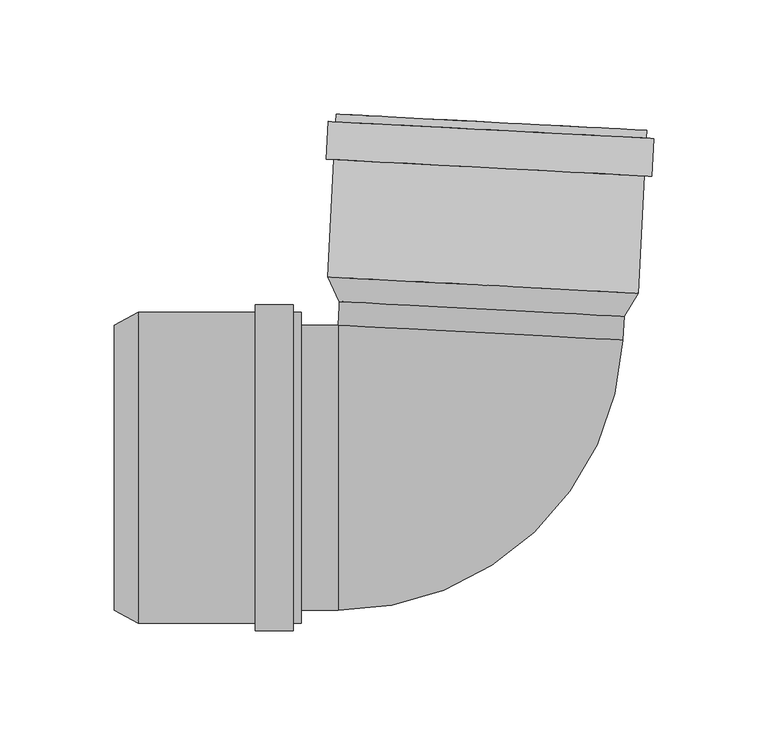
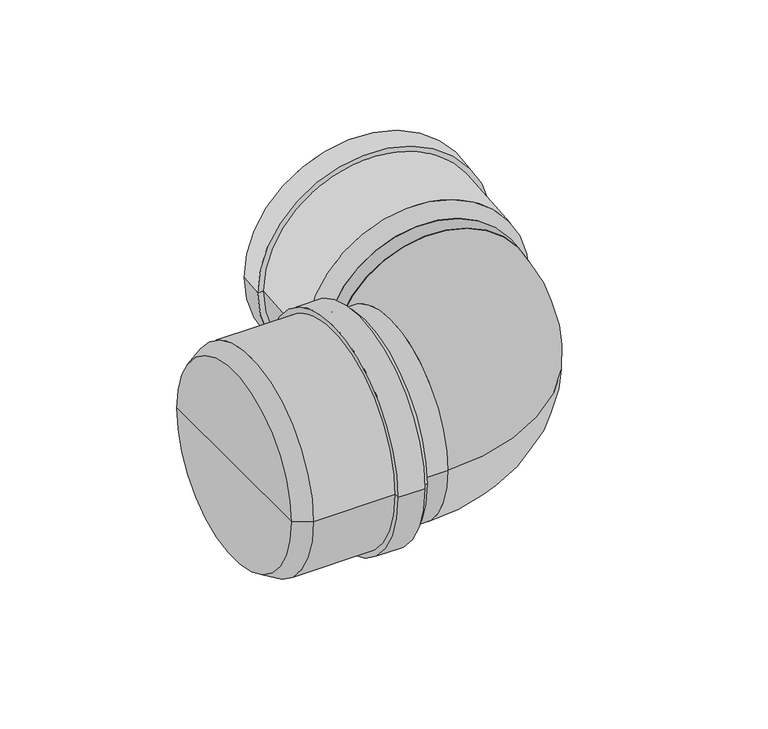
"""IFC4 building model written with IfcOpenShell, lengths in millimetres: pipe fitting geometry, pf_HTB : pf_HTB."""

from ifc_helpers import new_model, si_unit, point, frame, origin, origin_2d, place, context, project, spatial, polyline, circle_curve, ellipse_curve, trimmed, segment, composite_curve, outline, extrude, source, transform, mapped, element, save
from ifc_brep_helpers import plane_surface, cylinder_surface, revolved_surface, advanced_brep


def pipe_fitting_a0c841f7(model_context):
    return source(origin(), model_context, "Body", "SolidModel", [
        advanced_brep(
        [(66.0621621, 66.3334813, 0.0), (-58.7665298, 72.8754758, 0.0), (-63.8093276, 83.6541673, 0.0), (72.204015, 76.5260101, 0.0), (3.6478162, 69.6044786, 0.0), (75.9460359, 147.9280218, 0.0), (-60.0673068, 155.056179, 0.0), (-54.4749814, 154.7630977, 0.0), (70.3537105, 148.2211032, 0.0), (75.7680936, 144.5326814, 0.0), (-60.245249, 151.6608386, 0.0), (79.163434, 144.3547391, 0.0), (-63.6405894, 151.8387809, 0.0), (78.2946572, 127.7774889, 0.0), (-64.5093663, 135.2615306, 0.0), (74.8993168, 127.9554311, 0.0), (-61.1140259, 135.0835883, 0.0), (66.6116896, 76.8190914, 0.0), (-58.2170022, 83.361086, 0.0), (4.1973437, 80.0900887, 0.0)],
        [
            (0, 1, circle_curve(frame((3.6478162, 69.6044786, 0.0), z_axis=(0.05233595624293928, 0.9986295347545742, 0.0), x_axis=(-0.9986295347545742, 0.05233595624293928, 0.0)), 62.5)),
            (1, 2),
            (2, 3, circle_curve(frame((4.1973437, 80.0900887, 0.0), z_axis=(-0.05233595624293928, -0.9986295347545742, 0.0), x_axis=(-0.9986295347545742, 0.05233595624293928, 0.0)), 68.1)),
            (3, 0),
            (1, 0, circle_curve(frame((3.6478162, 69.6044786, 0.0), z_axis=(0.05233595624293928, 0.9986295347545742, 0.0), x_axis=(-0.9986295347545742, 0.05233595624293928, 0.0)), 62.5)),
            (3, 2, circle_curve(frame((4.1973437, 80.0900887, 0.0), z_axis=(-0.05233595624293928, -0.9986295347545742, 0.0), x_axis=(-0.9986295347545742, 0.05233595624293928, 0.0)), 68.1)),
            (4, 1),
            (0, 4),
            (5, 6, circle_curve(frame((7.9393646, 151.4921004, 0.0), z_axis=(0.05233595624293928, 0.9986295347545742, 0.0), x_axis=(-0.9986295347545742, 0.05233595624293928, 0.0)), 68.1)),
            (6, 7),
            (7, 8, circle_curve(frame((7.9393646, 151.4921004, 0.0), z_axis=(-0.05233595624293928, -0.9986295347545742, 0.0), x_axis=(-0.9986295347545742, 0.05233595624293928, 0.0)), 62.5)),
            (8, 5),
            (6, 5, circle_curve(frame((7.9393646, 151.4921004, 0.0), z_axis=(0.05233595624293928, 0.9986295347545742, 0.0), x_axis=(-0.9986295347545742, 0.05233595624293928, 0.0)), 68.1)),
            (8, 7, circle_curve(frame((7.9393646, 151.4921004, 0.0), z_axis=(-0.05233595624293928, -0.9986295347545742, 0.0), x_axis=(-0.9986295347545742, 0.05233595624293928, 0.0)), 62.5)),
            (9, 10, circle_curve(frame((7.7614223, 148.09676, 0.0), z_axis=(0.05233595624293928, 0.9986295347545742, 0.0), x_axis=(-0.9986295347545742, 0.05233595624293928, 0.0)), 68.1)),
            (10, 6),
            (5, 9),
            (10, 9, circle_curve(frame((7.7614223, 148.09676, 0.0), z_axis=(0.05233595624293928, 0.9986295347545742, 0.0), x_axis=(-0.9986295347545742, 0.05233595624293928, 0.0)), 68.1)),
            (11, 12, circle_curve(frame((7.7614223, 148.09676, 0.0), z_axis=(0.05233595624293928, 0.9986295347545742, 0.0), x_axis=(-0.9986295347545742, 0.05233595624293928, 0.0)), 71.5)),
            (12, 10),
            (9, 11),
            (12, 11, circle_curve(frame((7.7614223, 148.09676, 0.0), z_axis=(0.05233595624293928, 0.9986295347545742, 0.0), x_axis=(-0.9986295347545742, 0.05233595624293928, 0.0)), 71.5)),
            (13, 14, circle_curve(frame((6.8926454, 131.5195097, 0.0), z_axis=(0.05233595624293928, 0.9986295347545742, 0.0), x_axis=(-0.9986295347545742, 0.05233595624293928, 0.0)), 71.5)),
            (14, 12),
            (11, 13),
            (14, 13, circle_curve(frame((6.8926454, 131.5195097, 0.0), z_axis=(0.05233595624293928, 0.9986295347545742, 0.0), x_axis=(-0.9986295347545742, 0.05233595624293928, 0.0)), 71.5)),
            (15, 16, circle_curve(frame((6.8926454, 131.5195097, 0.0), z_axis=(0.05233595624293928, 0.9986295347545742, 0.0), x_axis=(-0.9986295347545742, 0.05233595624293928, 0.0)), 68.1)),
            (16, 14),
            (13, 15),
            (16, 15, circle_curve(frame((6.8926454, 131.5195097, 0.0), z_axis=(0.05233595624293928, 0.9986295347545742, 0.0), x_axis=(-0.9986295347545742, 0.05233595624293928, 0.0)), 68.1)),
            (2, 16),
            (15, 3),
            (17, 18, circle_curve(frame((4.1973437, 80.0900887, 0.0), z_axis=(0.05233595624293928, 0.9986295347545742, 0.0), x_axis=(-0.9986295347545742, 0.05233595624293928, 0.0)), 62.5)),
            (18, 19),
            (19, 17),
            (18, 17, circle_curve(frame((4.1973437, 80.0900887, 0.0), z_axis=(0.05233595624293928, 0.9986295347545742, 0.0), x_axis=(-0.9986295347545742, 0.05233595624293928, 0.0)), 62.5)),
            (7, 18),
            (17, 8),
        ],
        [
            revolved_surface(polyline([(-63.8093276, 83.6541673, 0.0), (-58.7665298, 72.8754758, 0.0)]), (3.6478162, 69.6044786, 0.0), (-0.05233595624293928, -0.9986295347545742, 0.0)),
            plane_surface(frame((3.6478162, 69.6044786, 0.0), z_axis=(-0.05233595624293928, -0.9986295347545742, 0.0), x_axis=(-0.9986295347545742, 0.05233595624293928, 0.0))),
            plane_surface(frame((7.9393646, 151.4921004, 0.0), z_axis=(0.05233595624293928, 0.9986295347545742, 0.0), x_axis=(-0.9986295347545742, 0.05233595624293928, 0.0))),
            cylinder_surface(frame((3.6478162, 69.6044786, 0.0), z_axis=(-0.05233595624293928, -0.9986295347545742, 0.0), x_axis=(-0.9986295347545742, 0.05233595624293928, 0.0)), 68.1),
            plane_surface(frame((7.7614223, 148.09676, 0.0), z_axis=(0.05233595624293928, 0.9986295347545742, 0.0), x_axis=(-0.9986295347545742, 0.05233595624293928, 0.0))),
            cylinder_surface(frame((3.6478162, 69.6044786, 0.0), z_axis=(-0.05233595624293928, -0.9986295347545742, 0.0), x_axis=(-0.9986295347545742, 0.05233595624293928, 0.0)), 71.5),
            plane_surface(frame((6.8926454, 131.5195097, 0.0), z_axis=(-0.05233595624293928, -0.9986295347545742, 0.0), x_axis=(-0.9986295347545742, 0.05233595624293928, 0.0))),
            plane_surface(frame((4.1973437, 80.0900887, 0.0), z_axis=(0.05233595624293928, 0.9986295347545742, 0.0), x_axis=(-0.9986295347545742, 0.05233595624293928, 0.0))),
            revolved_surface(polyline([(-58.21700218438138, 83.36108592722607, 0.0), (-54.47498130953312, 154.7630977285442, 0.0)]), (3.6478162, 69.6044786, 0.0), (-0.05233595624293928, -0.9986295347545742, 0.0)),
        ],
        [
            (0, [[1, 2, 3, 4]]),
            (0, [[5, -4, 6, -2]]),
            (1, [[7, -1, 8]]),
            (1, [[-8, -5, -7]]),
            (2, [[9, 10, 11, 12]]),
            (2, [[13, -12, 14, -10]]),
            (3, [[15, 16, -9, 17]]),
            (3, [[18, -17, -13, -16]]),
            (4, [[19, 20, -15, 21]]),
            (4, [[22, -21, -18, -20]]),
            (5, [[23, 24, -19, 25]]),
            (5, [[26, -25, -22, -24]]),
            (6, [[27, 28, -23, 29]]),
            (6, [[30, -29, -26, -28]]),
            (3, [[-3, 31, -27, 32]]),
            (3, [[-6, -32, -30, -31]]),
            (7, [[33, 34, 35]]),
            (7, [[36, -35, -34]]),
            (8, [[-11, 37, -33, 38]]),
            (8, [[-14, -38, -36, -37]]),
        ],
    ),
        advanced_brep(
        [(-157.5, -62.5, 0.0), (-157.5, 62.5, 0.0), (-147.0, 68.1, 0.0), (-147.0, -68.1, 0.0), (-157.5, 0.0, 0.0), (-75.5, -68.1, 0.0), (-75.5, 68.1, 0.0), (-75.5, 62.5, 0.0), (-75.5, -62.5, 0.0), (-78.9, -68.1, 0.0), (-78.9, 68.1, 0.0), (-78.9, -71.5, 0.0), (-78.9, 71.5, 0.0), (-95.5, -71.5, 0.0), (-95.5, 71.5, 0.0), (-95.5, -68.1, 0.0), (-95.5, 68.1, 0.0), (-147.0, -62.5, 0.0), (-147.0, 62.5, 0.0), (-147.0, 0.0, 0.0)],
        [
            (0, 1, circle_curve(frame((-157.5, 0.0, 0.0), z_axis=(1.0, 0.0, 0.0), x_axis=(0.0, 1.0, 0.0)), 62.5)),
            (1, 2),
            (2, 3, circle_curve(frame((-147.0, 0.0, 0.0), z_axis=(-1.0, 0.0, 0.0), x_axis=(0.0, 1.0, 0.0)), 68.1)),
            (3, 0),
            (1, 0, circle_curve(frame((-157.5, 0.0, 0.0), z_axis=(1.0, 0.0, 0.0), x_axis=(0.0, 1.0, 0.0)), 62.5)),
            (3, 2, circle_curve(frame((-147.0, 0.0, 0.0), z_axis=(-1.0, 0.0, 0.0), x_axis=(0.0, 1.0, 0.0)), 68.1)),
            (4, 1),
            (0, 4),
            (5, 6, circle_curve(frame((-75.5, 0.0, 0.0), z_axis=(1.0, 0.0, 0.0), x_axis=(0.0, 1.0, 0.0)), 68.1)),
            (6, 7),
            (7, 8, circle_curve(frame((-75.5, 0.0, 0.0), z_axis=(-1.0, 0.0, 0.0), x_axis=(0.0, 1.0, 0.0)), 62.5)),
            (8, 5),
            (6, 5, circle_curve(frame((-75.5, 0.0, 0.0), z_axis=(1.0, 0.0, 0.0), x_axis=(0.0, 1.0, 0.0)), 68.1)),
            (8, 7, circle_curve(frame((-75.5, 0.0, 0.0), z_axis=(-1.0, 0.0, 0.0), x_axis=(0.0, 1.0, 0.0)), 62.5)),
            (9, 10, circle_curve(frame((-78.9, 0.0, 0.0), z_axis=(1.0, 0.0, 0.0), x_axis=(0.0, 1.0, 0.0)), 68.1)),
            (10, 6),
            (5, 9),
            (10, 9, circle_curve(frame((-78.9, 0.0, 0.0), z_axis=(1.0, 0.0, 0.0), x_axis=(0.0, 1.0, 0.0)), 68.1)),
            (11, 12, circle_curve(frame((-78.9, 0.0, 0.0), z_axis=(1.0, 0.0, 0.0), x_axis=(0.0, 1.0, 0.0)), 71.5)),
            (12, 10),
            (9, 11),
            (12, 11, circle_curve(frame((-78.9, 0.0, 0.0), z_axis=(1.0, 0.0, 0.0), x_axis=(0.0, 1.0, 0.0)), 71.5)),
            (13, 14, circle_curve(frame((-95.5, 0.0, 0.0), z_axis=(1.0, 0.0, 0.0), x_axis=(0.0, 1.0, 0.0)), 71.5)),
            (14, 12),
            (11, 13),
            (14, 13, circle_curve(frame((-95.5, 0.0, 0.0), z_axis=(1.0, 0.0, 0.0), x_axis=(0.0, 1.0, 0.0)), 71.5)),
            (15, 16, circle_curve(frame((-95.5, 0.0, 0.0), z_axis=(1.0, 0.0, 0.0), x_axis=(0.0, 1.0, 0.0)), 68.1)),
            (16, 14),
            (13, 15),
            (16, 15, circle_curve(frame((-95.5, 0.0, 0.0), z_axis=(1.0, 0.0, 0.0), x_axis=(0.0, 1.0, 0.0)), 68.1)),
            (2, 16),
            (15, 3),
            (17, 18, circle_curve(frame((-147.0, 0.0, 0.0), z_axis=(1.0, 0.0, 0.0), x_axis=(0.0, 1.0, 0.0)), 62.5)),
            (18, 19),
            (19, 17),
            (18, 17, circle_curve(frame((-147.0, 0.0, 0.0), z_axis=(1.0, 0.0, 0.0), x_axis=(0.0, 1.0, 0.0)), 62.5)),
            (7, 18),
            (17, 8),
        ],
        [
            revolved_surface(polyline([(-147.0, 68.1, 0.0), (-157.5, 62.5, 0.0)]), (-157.5, 0.0, 0.0), (-1.0, 0.0, 0.0)),
            plane_surface(frame((-157.5, 0.0, 0.0), z_axis=(-1.0, 0.0, 0.0), x_axis=(0.0, 1.0, 0.0))),
            plane_surface(frame((-75.5, 0.0, 0.0), z_axis=(1.0, 0.0, 0.0), x_axis=(0.0, 1.0, 0.0))),
            cylinder_surface(frame((-157.5, 0.0, 0.0), z_axis=(-1.0, 0.0, 0.0), x_axis=(0.0, 1.0, 0.0)), 68.1),
            plane_surface(frame((-78.9, 0.0, 0.0), z_axis=(1.0, 0.0, 0.0), x_axis=(0.0, 1.0, 0.0))),
            cylinder_surface(frame((-157.5, 0.0, 0.0), z_axis=(-1.0, 0.0, 0.0), x_axis=(0.0, 1.0, 0.0)), 71.5),
            plane_surface(frame((-95.5, 0.0, 0.0), z_axis=(-1.0, 0.0, 0.0), x_axis=(0.0, 1.0, 0.0))),
            plane_surface(frame((-147.0, 0.0, 0.0), z_axis=(1.0, 0.0, 0.0), x_axis=(0.0, 1.0, 0.0))),
            revolved_surface(polyline([(-147.0, 62.5, 0.0), (-75.5, 62.5, 0.0)]), (-157.5, 0.0, 0.0), (-1.0, 0.0, 0.0)),
        ],
        [
            (0, [[1, 2, 3, 4]]),
            (0, [[5, -4, 6, -2]]),
            (1, [[7, -1, 8]]),
            (1, [[-8, -5, -7]]),
            (2, [[9, 10, 11, 12]]),
            (2, [[13, -12, 14, -10]]),
            (3, [[15, 16, -9, 17]]),
            (3, [[18, -17, -13, -16]]),
            (4, [[19, 20, -15, 21]]),
            (4, [[22, -21, -18, -20]]),
            (5, [[23, 24, -19, 25]]),
            (5, [[26, -25, -22, -24]]),
            (6, [[27, 28, -23, 29]]),
            (6, [[30, -29, -26, -28]]),
            (3, [[-3, 31, -27, 32]]),
            (3, [[-6, -32, -30, -31]]),
            (7, [[33, 34, 35]]),
            (7, [[36, -35, -34]]),
            (8, [[-11, 37, -33, 38]]),
            (8, [[-14, -38, -36, -37]]),
        ],
    ),
        extrude(outline(composite_curve([segment(trimmed(circle_curve(origin_2d(), 62.5), [point((0.0, -62.5))], [point((0.0, 62.5))], False, "CARTESIAN"), True, "CONTINUOUS"), segment(trimmed(circle_curve(origin_2d(), 62.5), [point((0.0, 62.5))], [point((0.0, -62.5))], False, "CARTESIAN"), True, "CONTINUOUS")], self_intersect=False)), frame((3.1040605, 59.2290027, 0.0), z_axis=(0.052335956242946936, 0.9986295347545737, 0.0), x_axis=(0.0, 0.0, 1.0)), (0.0, 0.0, 1.0), 20.8897146),
        extrude(outline(composite_curve([segment(trimmed(circle_curve(origin_2d(), 62.5), [point((-62.5, 0.0))], [point((62.5, 0.0))], False, "CARTESIAN"), True, "CONTINUOUS"), segment(trimmed(circle_curve(origin_2d(), 62.5), [point((62.5, 0.0))], [point((-62.5, 0.0))], False, "CARTESIAN"), True, "CONTINUOUS")], self_intersect=False)), frame((-147.0, 0.0, 0.0), z_axis=(1.0, 0.0, 0.0), x_axis=(0.0, 1.0, 0.0)), (0.0, 0.0, 1.0), 87.6897146),
        advanced_brep(
        [(-59.3102854, -62.5, 0.0), (-59.3102854, 62.5, 0.0), (65.5184064, 55.9580055, 0.0)],
        [
            (0, 1, circle_curve(frame((-59.3102854, 0.0, 0.0), z_axis=(-1.0, 0.0, 0.0), x_axis=(0.0, 1.0, 0.0)), 62.5)),
            (1, 0, circle_curve(frame((-59.3102854, 0.0, 0.0), z_axis=(-1.0, 0.0, 0.0), x_axis=(0.0, 1.0, 0.0)), 62.5)),
            (2, 1, circle_curve(frame((3.1040605, 59.2290027, 0.0), z_axis=(0.05233595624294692, 0.9986295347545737, 0.0), x_axis=(-0.9986295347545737, 0.05233595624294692, 0.0)), 62.5)),
            (1, 2, circle_curve(frame((3.1040605, 59.2290027, 0.0), z_axis=(0.05233595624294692, 0.9986295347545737, 0.0), x_axis=(-0.9986295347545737, 0.05233595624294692, 0.0)), 62.5)),
            (2, 0, circle_curve(frame((-59.3102854, 62.5, 0.0), z_axis=(0.0, 0.0, -1.0), x_axis=(0.0, -1.0, 0.0)), 125.0)),
        ],
        [
            plane_surface(frame((-59.3102854, 62.5, -14.8), z_axis=(-1.0, 0.0, 0.0), x_axis=(0.0, -1.0, 0.0))),
            plane_surface(frame((-59.3102854, 62.5, -14.8), z_axis=(0.052335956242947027, 0.9986295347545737, 0.0), x_axis=(0.9986295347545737, -0.052335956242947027, 0.0))),
            revolved_surface(trimmed(ellipse_curve(frame((-59.3102854, 0.0, 0.0), z_axis=(1.0, 0.0, 0.0), x_axis=(0.0, 1.0, 0.0)), 62.5, 62.5), [point((-59.3102854, -62.5, 0.0))], [point((-59.3102854, 62.5, 0.0))], True, "CARTESIAN"), (-59.3102854, 62.5, -14.8), (0.0, 0.0, -1.0)),
            revolved_surface(trimmed(ellipse_curve(frame((-59.3102854, 0.0, 0.0), z_axis=(1.0, 0.0, 0.0), x_axis=(0.0, 1.0, 0.0)), 62.5, 62.5), [point((-59.3102854, 62.5, 0.0))], [point((-59.3102854, -62.5, 0.0))], True, "CARTESIAN"), (-59.3102854, 62.5, -14.8), (0.0, 0.0, -1.0)),
        ],
        [
            (0, [[1, 2]]),
            (1, [[3, 4]]),
            (2, [[5, -2, -3]]),
            (3, [[-1, -5, -4]]),
        ],
    ),
    ])


if __name__ == "__main__":
    model = new_model("IFC4")
    model_context = context("Model", 3, world=origin())
    ifc_project = project(units=[si_unit("LENGTHUNIT", "METRE", prefix="MILLI")], contexts=[model_context])
    site = spatial("IfcSite", under=ifc_project)
    building = spatial("IfcBuilding", under=site)
    placement = place(None, origin())
    pipe_fitting_shape = pipe_fitting_a0c841f7(model_context)
    element("IfcPipeFitting", 1, ObjectType="pf_HTB : pf_HTB", at=placement, inside=building, context=model_context, shape_type="MappedRepresentation", body=[
        mapped(pipe_fitting_shape, transform((0.0, 0.0, 0.0), x_axis=(1.0, 0.0, 0.0), y_axis=(0.0, 1.0, 0.0), z_axis=(0.0, 0.0, 1.0))),
    ])
    save(model, "model.ifc")
